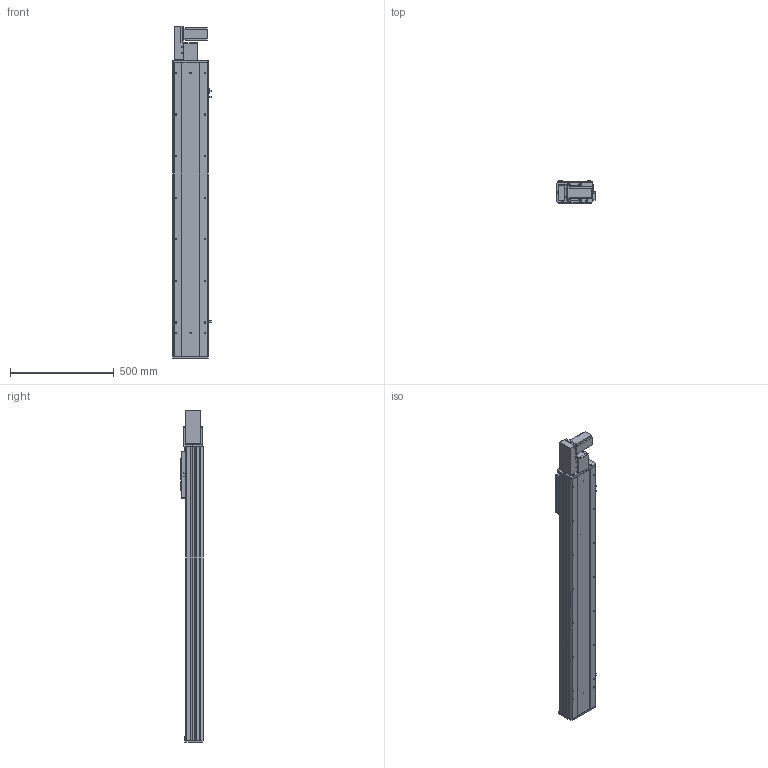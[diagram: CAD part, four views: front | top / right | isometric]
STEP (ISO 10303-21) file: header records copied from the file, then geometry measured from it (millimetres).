
FILE_DESCRIPTION (( 'STEP AP203' ), '1' );
FILE_NAME ('Y170CB-D105-S1100-BL-P400W.STEP', '2020-02-20T01:18:41', ( '微软用户' ), ( '微软中国' ), 'SwSTEP 2.0', 'SolidWorks 2017', '' );
FILE_SCHEMA (( 'CONFIG_CONTROL_DESIGN' ));
Length unit declared in the file: millimetre
Products named in the file (18): 70C-雄赽釱-奻-; 0B-萇儂楊擘啣; 0C--雄赽釱俋欶-170; san松下电机400不带刹车----; 70CB-詩湍--; Y70俋欶BR----; Y100-135俋离換覜ん--; 70CB-掛极-; Y170CB-陔俋离換覜結え---; --70CB --喘謫眊楊擘啣-; 70B喘謫眊----; 70CB-耜裔啣-; Y1埴倛裔; 70C--詩湍揤踡え-; B-源倛裔啣; Y170CB-D105-S1100-BL-P400W; 70CB--耜裔; 17B-耜蚾蟀諉啣----
Assembly tree (21 placements, depth 2):
  Y170CB-D105-S1100-BL-P400W
    B-源倛裔啣
    17B-耜蚾蟀諉啣----
    0B-萇儂楊擘啣
    san松下电机400不带刹车----
    Y70俋欶BR----
    70CB-掛极-
    --70CB --喘謫眊楊擘啣-
    70CB-耜裔啣-  x2
    70C--詩湍揤踡え-  x2
    70CB--耜裔
    70C-雄赽釱-奻-
    0C--雄赽釱俋欶-170
    70CB-詩湍--
    Y100-135俋离換覜ん--  x3
    Y170CB-陔俋离換覜結え---
    70B喘謫眊----
    Y1埴倛裔
Bounding box: 183.5 x 107 x 1597 mm (x, y, z)
Volume: 6930719.5 mm3; surface area: 2484768.5 mm2
Topology: 21 solids, 21 shells, 1015 faces, 2717 edges, 1802 vertices
Faces by surface type: cylinder 527, plane 464, cone 24
Entity records: 32320 total; most frequent: CARTESIAN_POINT 5916, DIRECTION 5254, ORIENTED_EDGE 4916, EDGE_CURVE 2458, AXIS2_PLACEMENT_3D 1924, VERTEX_POINT 1632, VECTOR 1406, LINE 1406
